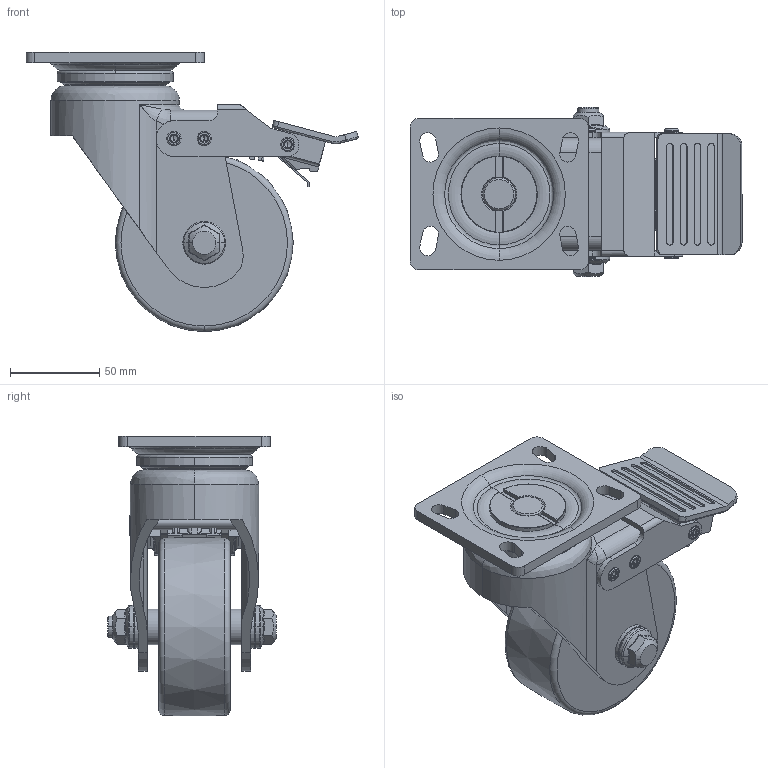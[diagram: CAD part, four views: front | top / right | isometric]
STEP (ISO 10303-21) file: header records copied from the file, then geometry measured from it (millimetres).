
FILE_DESCRIPTION((''),'2;1');
FILE_NAME('PH-100-BSF-SUD.stp','2013-04-30T12:02:51',(''),(''),'Mechanical Desktop 2009','Mechanical Desktop 2009',', , ');
FILE_SCHEMA(('CONFIG_CONTROL_DESIGN'));
Length unit declared in the file: millimetre
Products named in the file (2): PH-100-BSF-SUD; PLATE
Assembly tree (1 placements, depth 2):
  PH-100-BSF-SUD
    PLATE
Bounding box: 186.27 x 94.8 x 156.97 mm (x, y, z)
Volume: 569039.1 mm3; surface area: 151344.6 mm2
Topology: 8 solids, 8 shells, 762 faces, 2034 edges, 1292 vertices
Faces by surface type: cylinder 274, plane 241, torus 105, bspline 90, cone 44, sphere 8
Entity records: 28594 total; most frequent: CARTESIAN_POINT 9097, DIRECTION 4291, ORIENTED_EDGE 4042, EDGE_CURVE 2021, AXIS2_PLACEMENT_3D 1713, VERTEX_POINT 1292, CIRCLE 987, VECTOR 865
